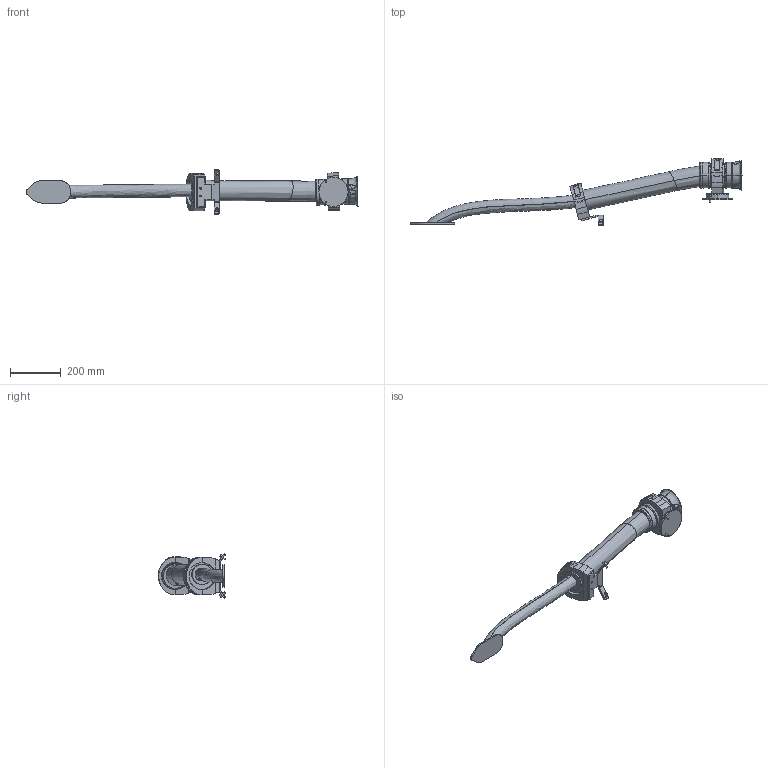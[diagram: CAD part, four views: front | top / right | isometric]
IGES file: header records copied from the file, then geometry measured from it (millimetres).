
Start section: SolidWorks IGES file using analytic representation for surfaces
Global section: file name: C:\Data\SAP_DOC\IRB6740_lightweight\6740\IRB6740-LID-MH_220kg-320_OC_01_SW_J\IRB6740-LID-MH_220kg-320_OC_01_IGES_J\IRB6740-LID_220kg-320_OC_00_LINK04_CABLE.igs; native system: SolidWorks 2024; preprocessor: SolidWorks 2024; author: SEJAOLS6; date: 260513.070819; units: millimetre
Bounding box: 1309.61 x 265.02 x 174.65 mm (x, y, z)
Surface area: 463903 mm2 (no closed solid volume)
Topology: 0 solids, 0 shells, 424 faces, 7818 edges, 7818 vertices
Faces by surface type: bspline 262, revolution 162
